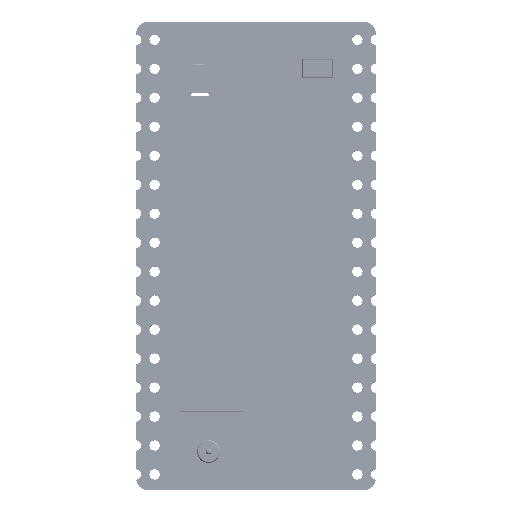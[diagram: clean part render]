
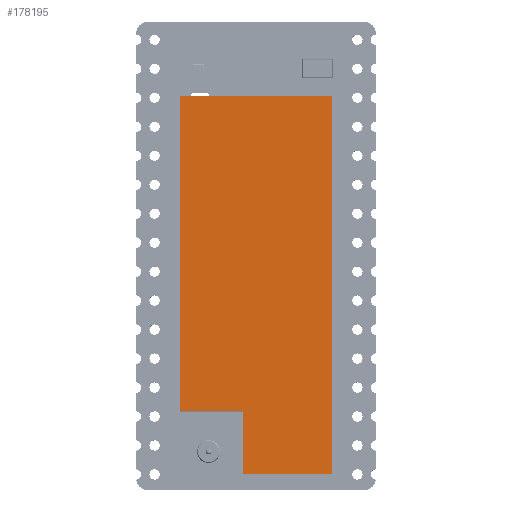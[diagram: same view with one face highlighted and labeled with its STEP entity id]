
A CAD part, top view. The second image highlights one B-rep face of the part: STEP entity #178195.
In plain terms, the highlighted planar face has unit normal (0, 0, 1) as drawn and (0, 1, 0) by its records, which use the part's own axes.
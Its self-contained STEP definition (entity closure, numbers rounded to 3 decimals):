
#177895=DIRECTION('',(-1.,0.,0.));
#177896=VECTOR('',#177895,5.5);
#177897=CARTESIAN_POINT('',(16.56,1.6,1.135));
#177898=LINE('',#177897,#177896);
#177899=DIRECTION('',(0.,0.,-1.));
#177900=VECTOR('',#177899,5.5);
#177901=CARTESIAN_POINT('',(11.06,1.6,6.635));
#177902=LINE('',#177901,#177900);
#177903=DIRECTION('',(1.,0.,0.));
#177904=VECTOR('',#177903,27.62);
#177905=CARTESIAN_POINT('',(-16.56,1.6,6.635));
#177906=LINE('',#177905,#177904);
#177907=DIRECTION('',(0.,0.,1.));
#177908=VECTOR('',#177907,13.27);
#177909=CARTESIAN_POINT('',(-16.56,1.6,-6.635));
#177910=LINE('',#177909,#177908);
#177911=DIRECTION('',(-1.,0.,0.));
#177912=VECTOR('',#177911,33.12);
#177913=CARTESIAN_POINT('',(16.56,1.6,-6.635));
#177914=LINE('',#177913,#177912);
#177915=DIRECTION('',(0.,0.,-1.));
#177916=VECTOR('',#177915,7.77);
#177917=CARTESIAN_POINT('',(16.56,1.6,1.135));
#177918=LINE('',#177917,#177916);
#177973=CARTESIAN_POINT('',(-16.56,1.6,-6.635));
#177974=CARTESIAN_POINT('',(-16.56,1.6,6.635));
#177975=VERTEX_POINT('',#177973);
#177976=VERTEX_POINT('',#177974);
#177977=CARTESIAN_POINT('',(16.56,1.6,-6.635));
#177978=VERTEX_POINT('',#177977);
#177985=CARTESIAN_POINT('',(16.56,1.6,1.135));
#177986=CARTESIAN_POINT('',(11.06,1.6,1.135));
#177987=VERTEX_POINT('',#177985);
#177988=VERTEX_POINT('',#177986);
#177989=CARTESIAN_POINT('',(11.06,1.6,6.635));
#177990=VERTEX_POINT('',#177989);
#178182=CARTESIAN_POINT('',(0.,1.6,0.));
#178183=DIRECTION('',(0.,1.,0.));
#178184=DIRECTION('',(1.,0.,0.));
#178185=AXIS2_PLACEMENT_3D('',#178182,#178183,#178184);
#178186=PLANE('',#178185);
#178187=ORIENTED_EDGE('',*,*,#178064,.T.);
#178188=ORIENTED_EDGE('',*,*,#178086,.F.);
#178189=ORIENTED_EDGE('',*,*,#178108,.F.);
#178190=ORIENTED_EDGE('',*,*,#178128,.F.);
#178191=ORIENTED_EDGE('',*,*,#178149,.F.);
#178192=ORIENTED_EDGE('',*,*,#178168,.F.);
#178193=EDGE_LOOP('',(#178187,#178188,#178189,#178190,#178191,#178192));
#178194=FACE_OUTER_BOUND('',#178193,.F.);
#178195=ADVANCED_FACE('',(#178194),#178186,.T.);
#178064=EDGE_CURVE('',#177987,#177988,#177898,.T.);
#178086=EDGE_CURVE('',#177990,#177988,#177902,.T.);
#178108=EDGE_CURVE('',#177976,#177990,#177906,.T.);
#178128=EDGE_CURVE('',#177975,#177976,#177910,.T.);
#178149=EDGE_CURVE('',#177978,#177975,#177914,.T.);
#178168=EDGE_CURVE('',#177987,#177978,#177918,.T.);
